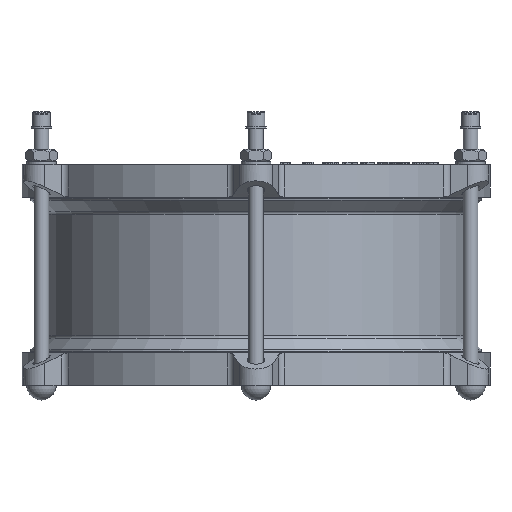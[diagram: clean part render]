
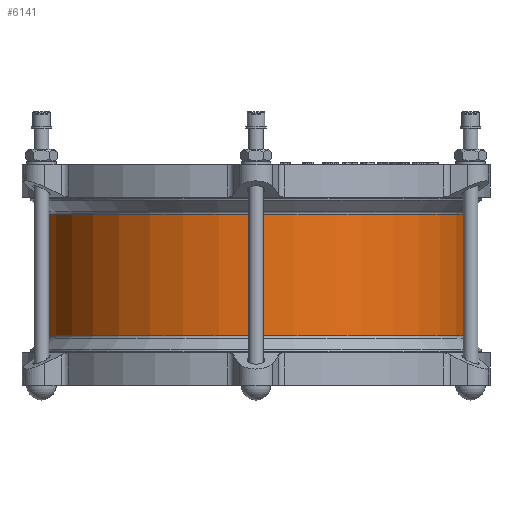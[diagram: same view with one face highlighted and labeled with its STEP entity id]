
A CAD part, left-side view. The second image highlights one B-rep face of the part: STEP entity #6141.
In plain terms, the highlighted cylindrical face has radius 172 mm (diameter 344 mm), a full revolution.
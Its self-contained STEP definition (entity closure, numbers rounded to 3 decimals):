
#6141=ADVANCED_FACE('',(#11293,#11295),#11297,.T.);
#11293=FACE_OUTER_BOUND('',#11294,.T.);
#11294=EDGE_LOOP('',(#16887));
#11295=FACE_OUTER_BOUND('',#11296,.T.);
#11296=EDGE_LOOP('',(#16888));
#11297=CYLINDRICAL_SURFACE('',#11298,172.);
#11298=AXIS2_PLACEMENT_3D('',#11299,#11300,#11301);
#11299=CARTESIAN_POINT('',(0.,0.,50.257));
#11300=DIRECTION('',(0.,0.,-1.));
#11301=DIRECTION('',(0.,1.,0.));
#16887=ORIENTED_EDGE('',*,*,#19241,.T.);
#16888=ORIENTED_EDGE('',*,*,#19242,.F.);
#19241=EDGE_CURVE('',#22513,#22513,#22514,.T.);
#19242=EDGE_CURVE('',#22515,#22515,#22516,.T.);
#22513=VERTEX_POINT('',#34174);
#22514=CIRCLE('',#34175,172.);
#22515=VERTEX_POINT('',#34179);
#22516=CIRCLE('',#34180,172.);
#34174=CARTESIAN_POINT('',(0.,172.,49.015));
#34175=AXIS2_PLACEMENT_3D('',#34176,#34177,#34178);
#34176=CARTESIAN_POINT('',(0.,0.,49.015));
#34177=DIRECTION('',(0.,0.,-1.));
#34178=DIRECTION('',(0.,1.,0.));
#34179=CARTESIAN_POINT('',(0.,172.,-49.015));
#34180=AXIS2_PLACEMENT_3D('',#34181,#34182,#34183);
#34181=CARTESIAN_POINT('',(0.,0.,-49.015));
#34182=DIRECTION('',(0.,0.,-1.));
#34183=DIRECTION('',(0.,1.,0.));
